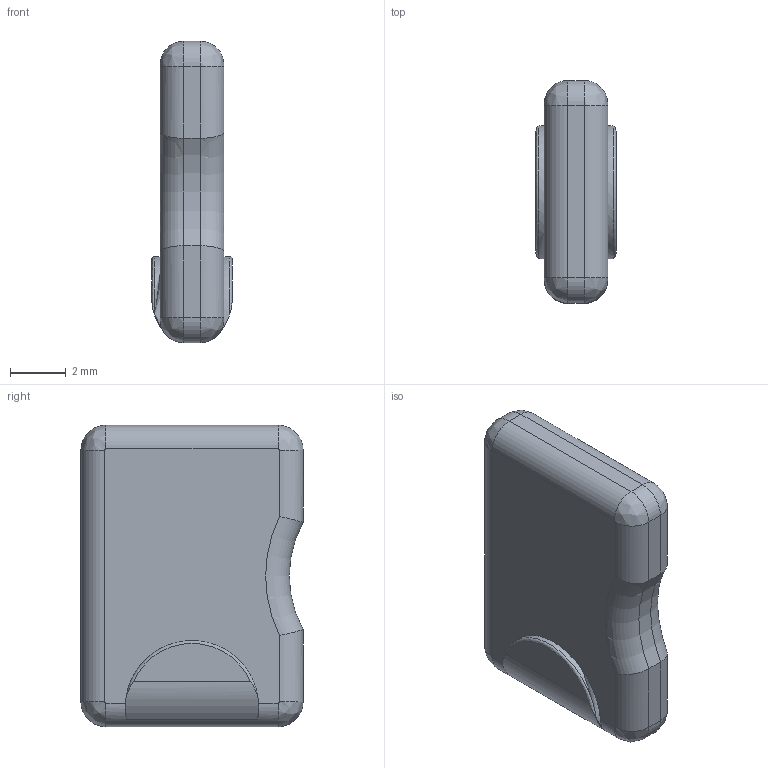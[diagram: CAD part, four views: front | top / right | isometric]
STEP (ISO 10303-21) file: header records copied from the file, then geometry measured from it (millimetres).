
FILE_DESCRIPTION((''),'2;1');
FILE_NAME('P651','2009-06-26T',('jbe'),(''),'PRO/ENGINEER BY PARAMETRIC TECHNOLOGY CORPORATION, 2008400','PRO/ENGINEER BY PARAMETRIC TECHNOLOGY CORPORATION, 2008400','');
FILE_SCHEMA(('CONFIG_CONTROL_DESIGN'));
Length unit declared in the file: millimetre
Products named in the file (1): P651
Bounding box: 2.9 x 8 x 10.85 mm (x, y, z)
Volume: 189 mm3; surface area: 230.5 mm2
Topology: 1 solids, 1 shells, 40 faces, 94 edges, 56 vertices
Faces by surface type: cylinder 19, plane 9, bspline 8, torus 4
Entity records: 1346 total; most frequent: CARTESIAN_POINT 422, ORIENTED_EDGE 188, DIRECTION 184, EDGE_CURVE 94, AXIS2_PLACEMENT_3D 74, VERTEX_POINT 56, CIRCLE 42, EDGE_LOOP 40
